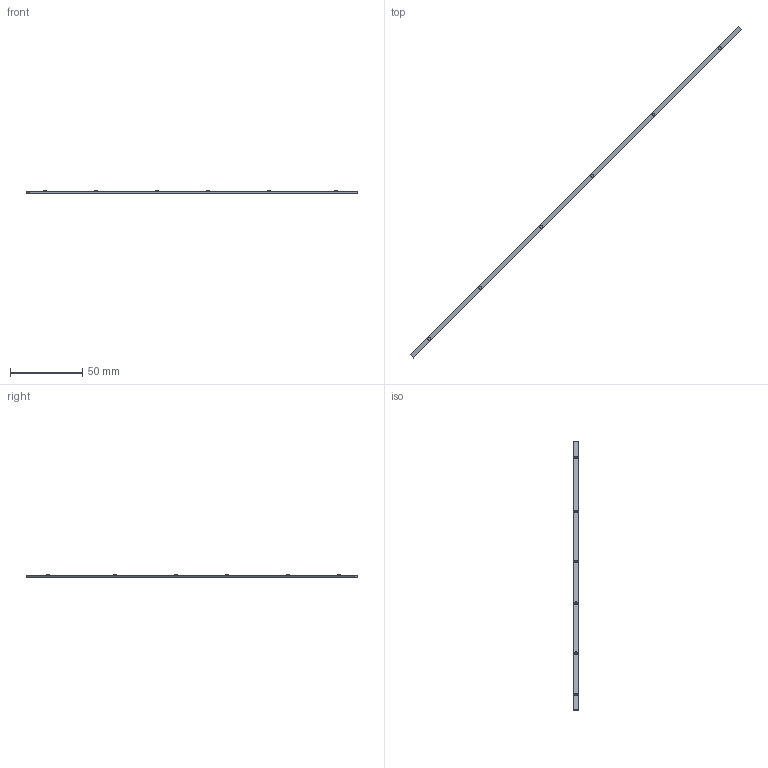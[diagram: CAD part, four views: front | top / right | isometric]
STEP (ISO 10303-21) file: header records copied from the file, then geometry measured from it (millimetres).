
FILE_DESCRIPTION(('Open CASCADE Model'),'2;1');
FILE_NAME('Open CASCADE Shape Model','2026-10-27T10:00:44',('Author'),( 'Open CASCADE'),'Open CASCADE STEP processor 8.0','build123d', 'Unknown');
FILE_SCHEMA(('AUTOMOTIVE_DESIGN { 1 0 10303 214 1 1 1 1 }'));
Length unit declared in the file: millimetre
Products named in the file (2): =>[0:1:1:2]; COMPOUND
Assembly tree (1 placements, depth 2):
  =>[0:1:1:2]
    COMPOUND
Bounding box: 230.16 x 230.16 x 2.3 mm (x, y, z)
Volume: 1753.3 mm3; surface area: 3324.3 mm2
Topology: 1 solids, 1 shells, 18 faces, 30 edges, 20 vertices
Faces by surface type: plane 12, cylinder 6
Full cylindrical faces by diameter (mm): 2 x6
Entity records: 844 total; most frequent: DIRECTION 142, CARTESIAN_POINT 130, LINE 66, VECTOR 66, ORIENTED_EDGE 60, PCURVE 60, DEFINITIONAL_REPRESENTATION 60, AXIS2_PLACEMENT_3D 32
